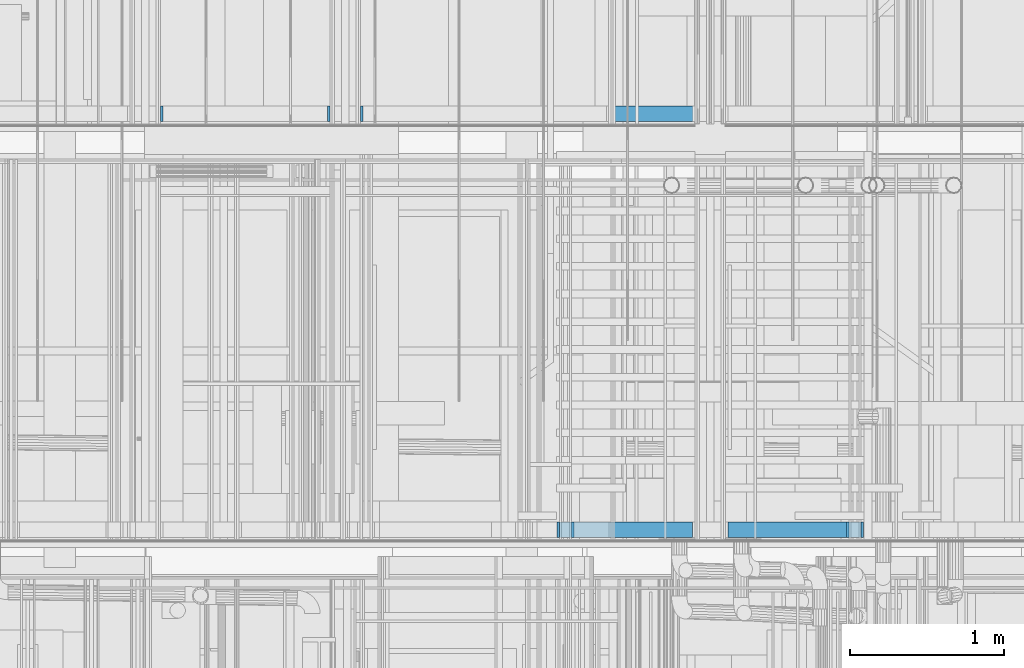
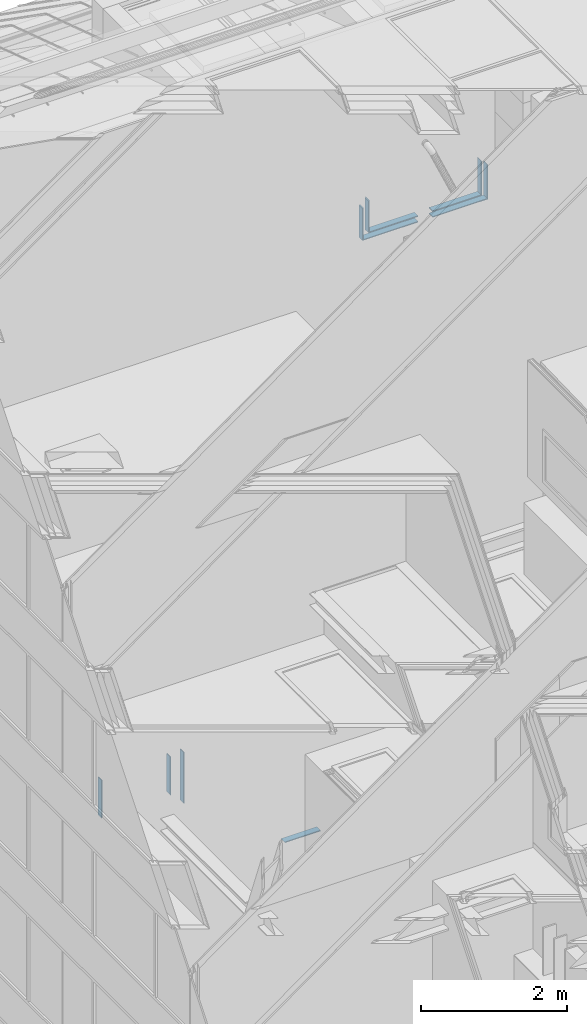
# One storey, part 239 of 583: 12 building element parts, 7 elements without a shape of their own.
"""IFC2X3 building model written with IfcOpenShell, lengths in metres."""

from ifc_helpers import new_model, entity, si_unit, converted_unit, derived_unit, money_unit, direction, frame, origin_with_axes, place, context, subcontext, project, spatial, polyline, outline, extrude, material, type_object, element, aggregate, save


model = new_model("IFC2X3")

# Units and contexts
model_context = context("Model", 3, precision=1e-05, world=origin_with_axes(), true_north=direction((0.0, 1.0)))
body_context = subcontext(model_context, "Body", "Model", "MODEL_VIEW", scale=1.0)
ifc_project = project(units=[si_unit("LENGTHUNIT", "METRE"), si_unit("AREAUNIT", "SQUARE_METRE"), si_unit("VOLUMEUNIT", "CUBIC_METRE"), si_unit("ABSORBEDDOSEUNIT", "GRAY"), si_unit("AMOUNTOFSUBSTANCEUNIT", "MOLE"), si_unit("DOSEEQUIVALENTUNIT", "SIEVERT"), si_unit("ELECTRICCAPACITANCEUNIT", "FARAD"), si_unit("ELECTRICCHARGEUNIT", "COULOMB"), si_unit("ELECTRICCONDUCTANCEUNIT", "SIEMENS"), si_unit("ELECTRICCURRENTUNIT", "AMPERE"), si_unit("ELECTRICRESISTANCEUNIT", "OHM"), si_unit("ELECTRICVOLTAGEUNIT", "VOLT"), si_unit("ENERGYUNIT", "JOULE"), si_unit("FORCEUNIT", "NEWTON"), si_unit("FREQUENCYUNIT", "HERTZ"), si_unit("ILLUMINANCEUNIT", "LUX"), si_unit("INDUCTANCEUNIT", "HENRY"), si_unit("LUMINOUSFLUXUNIT", "LUMEN"), si_unit("LUMINOUSINTENSITYUNIT", "CANDELA"), si_unit("MAGNETICFLUXDENSITYUNIT", "TESLA"), si_unit("MAGNETICFLUXUNIT", "WEBER"), si_unit("MASSUNIT", "GRAM"), converted_unit("PLANEANGLEUNIT", "degree", entity("IfcReal", 0.0174532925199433), si_unit("PLANEANGLEUNIT", "RADIAN"), dimensions=[0, 0, 0, 0, 0, 0, 0]), si_unit("POWERUNIT", "WATT"), si_unit("PRESSUREUNIT", "PASCAL"), si_unit("RADIOACTIVITYUNIT", "BECQUEREL"), si_unit("SOLIDANGLEUNIT", "STERADIAN"), si_unit("THERMODYNAMICTEMPERATUREUNIT", "KELVIN"), si_unit("TIMEUNIT", "SECOND"), derived_unit("ACCELERATIONUNIT", [(si_unit("LENGTHUNIT", "METRE"), 1), (si_unit("TIMEUNIT", "SECOND"), -2)]), derived_unit("ANGULARVELOCITYUNIT", [(converted_unit("PLANEANGLEUNIT", "degree", entity("IfcReal", 0.0174532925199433), si_unit("PLANEANGLEUNIT", "RADIAN"), dimensions=[0, 0, 0, 0, 0, 0, 0]), 1), (si_unit("TIMEUNIT", "SECOND"), -1)]), derived_unit("CURVATUREUNIT", [(converted_unit("PLANEANGLEUNIT", "degree", entity("IfcReal", 0.0174532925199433), si_unit("PLANEANGLEUNIT", "RADIAN"), dimensions=[0, 0, 0, 0, 0, 0, 0]), 1), (si_unit("LENGTHUNIT", "METRE"), -1)]), derived_unit("DYNAMICVISCOSITYUNIT", [(si_unit("PRESSUREUNIT", "PASCAL"), 1), (si_unit("TIMEUNIT", "SECOND"), 1)]), derived_unit("HEATFLUXDENSITYUNIT", [(si_unit("POWERUNIT", "WATT"), 1), (si_unit("LENGTHUNIT", "METRE"), -2)]), derived_unit("HEATINGVALUEUNIT", [(si_unit("ENERGYUNIT", "JOULE"), 1), (si_unit("MASSUNIT", "GRAM"), -1)]), derived_unit("INTEGERCOUNTRATEUNIT", [(si_unit("TIMEUNIT", "SECOND"), -1)]), derived_unit("IONCONCENTRATIONUNIT", [(si_unit("MASSUNIT", "GRAM"), 1), (si_unit("VOLUMEUNIT", "CUBIC_METRE"), -1)]), derived_unit("ISOTHERMALMOISTURECAPACITYUNIT", [(si_unit("VOLUMEUNIT", "CUBIC_METRE"), 1), (si_unit("MASSUNIT", "GRAM"), -1)]), derived_unit("KINEMATICVISCOSITYUNIT", [(si_unit("AREAUNIT", "SQUARE_METRE"), 1), (si_unit("TIMEUNIT", "SECOND"), -1)]), derived_unit("LINEARFORCEUNIT", [(si_unit("FORCEUNIT", "NEWTON"), 1), (si_unit("LENGTHUNIT", "METRE"), -1)]), derived_unit("LINEARMOMENTUNIT", [(si_unit("FORCEUNIT", "NEWTON"), 1), (si_unit("LENGTHUNIT", "METRE"), -1)]), derived_unit("LINEARSTIFFNESSUNIT", [(si_unit("FORCEUNIT", "NEWTON"), 1), (si_unit("LENGTHUNIT", "METRE"), -1)]), derived_unit("LINEARVELOCITYUNIT", [(si_unit("LENGTHUNIT", "METRE"), 1), (si_unit("TIMEUNIT", "SECOND"), -1)]), derived_unit("LUMINOUSINTENSITYDISTRIBUTIONUNIT", [(si_unit("LUMINOUSINTENSITYUNIT", "CANDELA"), 1), (si_unit("LUMINOUSFLUXUNIT", "LUMEN"), -1)]), derived_unit("MASSDENSITYUNIT", [(si_unit("MASSUNIT", "GRAM"), 1), (si_unit("VOLUMEUNIT", "CUBIC_METRE"), -1)]), derived_unit("MASSFLOWRATEUNIT", [(si_unit("MASSUNIT", "GRAM"), 1), (si_unit("TIMEUNIT", "SECOND"), -1)]), derived_unit("MASSPERLENGTHUNIT", [(si_unit("MASSUNIT", "GRAM"), 1), (si_unit("LENGTHUNIT", "METRE"), -1)]), derived_unit("MODULUSOFELASTICITYUNIT", [(si_unit("FORCEUNIT", "NEWTON"), 1), (si_unit("AREAUNIT", "SQUARE_METRE"), -1)]), derived_unit("MODULUSOFLINEARSUBGRADEREACTIONUNIT", [(si_unit("FORCEUNIT", "NEWTON"), 1), (si_unit("LENGTHUNIT", "METRE"), -2)]), derived_unit("MODULUSOFROTATIONALSUBGRADEREACTIONUNIT", [(si_unit("FORCEUNIT", "NEWTON"), 1), (si_unit("LENGTHUNIT", "METRE"), 1)]), derived_unit("MODULUSOFSUBGRADEREACTIONUNIT", [(si_unit("FORCEUNIT", "NEWTON"), 1), (si_unit("VOLUMEUNIT", "CUBIC_METRE"), -1)]), derived_unit("MOISTUREDIFFUSIVITYUNIT", [(si_unit("VOLUMEUNIT", "CUBIC_METRE"), 1), (si_unit("TIMEUNIT", "SECOND"), -1)]), derived_unit("MOLECULARWEIGHTUNIT", [(si_unit("MASSUNIT", "GRAM"), 1), (si_unit("AMOUNTOFSUBSTANCEUNIT", "MOLE"), -1)]), derived_unit("PLANARFORCEUNIT", [(si_unit("FORCEUNIT", "NEWTON"), 1), (si_unit("LENGTHUNIT", "METRE"), -2)]), derived_unit("ROTATIONALFREQUENCYUNIT", [(si_unit("TIMEUNIT", "SECOND"), -1)]), derived_unit("ROTATIONALMASSUNIT", [(si_unit("MASSUNIT", "GRAM"), 1), (si_unit("LENGTHUNIT", "METRE"), 2)]), derived_unit("ROTATIONALSTIFFNESSUNIT", [(si_unit("FORCEUNIT", "NEWTON"), 1), (si_unit("LENGTHUNIT", "METRE"), 1), (converted_unit("PLANEANGLEUNIT", "degree", entity("IfcReal", 0.0174532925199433), si_unit("PLANEANGLEUNIT", "RADIAN"), dimensions=[0, 0, 0, 0, 0, 0, 0]), -1)]), derived_unit("SECTIONAREAINTEGRALUNIT", [(si_unit("LENGTHUNIT", "METRE"), 5)]), derived_unit("SECTIONMODULUSUNIT", [(si_unit("LENGTHUNIT", "METRE"), 3)]), derived_unit("SHEARMODULUSUNIT", [(si_unit("FORCEUNIT", "NEWTON"), 1), (si_unit("AREAUNIT", "SQUARE_METRE"), -1)]), derived_unit("SOUNDPOWERUNIT", [(si_unit("ENERGYUNIT", "JOULE"), 1), (si_unit("TIMEUNIT", "SECOND"), -1)]), derived_unit("SPECIFICHEATCAPACITYUNIT", [(si_unit("FORCEUNIT", "NEWTON"), 1), (si_unit("MASSUNIT", "GRAM"), -1), (si_unit("THERMODYNAMICTEMPERATUREUNIT", "KELVIN"), -1)]), derived_unit("TEMPERATUREGRADIENTUNIT", [(si_unit("THERMODYNAMICTEMPERATUREUNIT", "KELVIN"), 1), (si_unit("LENGTHUNIT", "METRE"), -1)]), derived_unit("THERMALADMITTANCEUNIT", [(si_unit("POWERUNIT", "WATT"), 1), (si_unit("AREAUNIT", "SQUARE_METRE"), -1), (si_unit("THERMODYNAMICTEMPERATUREUNIT", "KELVIN"), -1)]), derived_unit("THERMALCONDUCTANCEUNIT", [(si_unit("POWERUNIT", "WATT"), 1), (si_unit("LENGTHUNIT", "METRE"), -1), (si_unit("THERMODYNAMICTEMPERATUREUNIT", "KELVIN"), -1)]), derived_unit("THERMALEXPANSIONCOEFFICIENTUNIT", [(si_unit("THERMODYNAMICTEMPERATUREUNIT", "KELVIN"), -1)]), derived_unit("THERMALRESISTANCEUNIT", [(si_unit("AREAUNIT", "SQUARE_METRE"), 1), (si_unit("POWERUNIT", "WATT"), -1)]), derived_unit("THERMALTRANSMITTANCEUNIT", [(si_unit("POWERUNIT", "WATT"), 1), (si_unit("AREAUNIT", "SQUARE_METRE"), -1), (si_unit("THERMODYNAMICTEMPERATUREUNIT", "KELVIN"), -1)]), derived_unit("TORQUEUNIT", [(si_unit("FORCEUNIT", "NEWTON"), 1), (si_unit("LENGTHUNIT", "METRE"), 1)]), derived_unit("VAPORPERMEABILITYUNIT", [(si_unit("MASSUNIT", "GRAM"), 1), (si_unit("TIMEUNIT", "SECOND"), -1)]), derived_unit("VOLUMETRICFLOWRATEUNIT", [(si_unit("VOLUMEUNIT", "CUBIC_METRE"), 1), (si_unit("TIMEUNIT", "SECOND"), -1)]), derived_unit("WARPINGCONSTANTUNIT", [(si_unit("LENGTHUNIT", "METRE"), 6)]), derived_unit("WARPINGMOMENTUNIT", [(si_unit("FORCEUNIT", "NEWTON"), 1), (si_unit("LENGTHUNIT", "METRE"), 2)]), money_unit("GBP")], contexts=[model_context])

# Site, building, storey
site_placement = place(None, origin_with_axes())
site = spatial("IfcSite", under=ifc_project, at=site_placement, Name="Site", CompositionType="ELEMENT")
building_placement = place(site_placement, origin_with_axes())
building = spatial("IfcBuilding", under=site, at=building_placement, Name="Building01", CompositionType="ELEMENT")
storey_placement = place(building_placement, frame((0.0, 0.0, 20.78), z_axis=(0.0, 0.0, 1.0), x_axis=(1.0, 0.0, 0.0)))
storey = spatial("IfcBuildingStorey", under=building, at=storey_placement, Name="RL", CompositionType="ELEMENT", Elevation=20.78)

# Wall, building element parts
wall_type_1 = type_object("IfcWallType", Name="SHE_A-Walls_Type05b_Partition_80mm", PredefinedType="NOTDEFINED")
wall_1_placement = place(storey_placement, frame((8.401915, 14.98, 2.426821), z_axis=(0.0, 1.0, 0.0), x_axis=(0.0, 0.0, 1.0)))
wall_1 = element("IfcWall", 1, at=wall_1_placement, inside=storey, type_object=wall_type_1, Name="5B", ObjectType="SHE_A-Walls_Type05b_Partition_80mm")
ifc_material = material(Name="A_BSUK_Walls_Timber")
placement_1 = place(wall_1_placement, origin_with_axes())
building_element_part_1 = element("IfcBuildingElementPart", 2, at=placement_1, material=ifc_material, Name="2", context=body_context, shape_type="SweptSolid", body=[
    extrude(outline(polyline([(0.528179, 0.043), (-0.043, 0.043), (-0.028, 0.028), (0.543179, 0.028), (0.528179, 0.043)])), frame((0.0, 0.0, 0.015), z_axis=(0.0, 0.0, 1.0), x_axis=(1.0, 0.0, 0.0)), (0.0, 0.0, 1.0), 0.1),
])
building_element_part_2 = element("IfcBuildingElementPart", 3, at=placement_1, material=ifc_material, Name="5", context=body_context, shape_type="SweptSolid", body=[
    extrude(outline(polyline([(0.623179, -0.052), (0.052, -0.052), (0.067, -0.067), (0.638179, -0.067), (0.623179, -0.052)])), frame((0.0, 0.0, 0.015), z_axis=(0.0, 0.0, 1.0), x_axis=(1.0, 0.0, 0.0)), (0.0, 0.0, 1.0), 0.1),
])
aggregate(wall_1, [building_element_part_1, building_element_part_2])

wall_2_placement = place(storey_placement, frame((6.498085, 14.98, 2.426821), z_axis=(0.0, 1.0, 0.0), x_axis=(0.0, 0.0, 1.0)))
wall_2 = element("IfcWall", 4, at=wall_2_placement, inside=storey, type_object=wall_type_1, Name="5B", ObjectType="SHE_A-Walls_Type05b_Partition_80mm")
placement_2 = place(wall_2_placement, origin_with_axes())
building_element_part_3 = element("IfcBuildingElementPart", 5, at=placement_2, material=ifc_material, Name="2", context=body_context, shape_type="SweptSolid", body=[
    extrude(outline(polyline([(0.503179, -0.028), (-0.028, -0.028), (-0.043, -0.043), (0.488179, -0.043), (0.503179, -0.028)])), frame((0.0, 0.0, 0.015), z_axis=(0.0, 0.0, 1.0), x_axis=(1.0, 0.0, 0.0)), (0.0, 0.0, 1.0), 0.1),
])
building_element_part_4 = element("IfcBuildingElementPart", 6, at=placement_2, material=ifc_material, Name="5", context=body_context, shape_type="SweptSolid", body=[
    extrude(outline(polyline([(0.598179, 0.067), (0.067, 0.067), (0.052, 0.052), (0.583179, 0.052), (0.598179, 0.067)])), frame((0.0, 0.0, 0.015), z_axis=(0.0, 0.0, 1.0), x_axis=(1.0, 0.0, 0.0)), (0.0, 0.0, 1.0), 0.1),
])
aggregate(wall_2, [building_element_part_3, building_element_part_4])

wall_3_placement = place(storey_placement, frame((7.549915, 14.98, 2.426821), z_axis=(0.0, 1.0, 0.0), x_axis=(1.0, 0.0, 0.0)))
wall_3 = element("IfcWall", 7, at=wall_3_placement, inside=storey, type_object=wall_type_1, Name="5B", ObjectType="SHE_A-Walls_Type05b_Partition_80mm")
placement_3 = place(wall_3_placement, origin_with_axes())
building_element_part_5 = element("IfcBuildingElementPart", 8, at=placement_3, material=ifc_material, Name="2", context=body_context, shape_type="SweptSolid", body=[
    extrude(outline(polyline([(0.895, 0.043), (0.015, 0.043), (0.015, 0.028), (0.88, 0.028), (0.895, 0.043)])), frame((0.0, 0.0, 0.015), z_axis=(0.0, 0.0, 1.0), x_axis=(1.0, 0.0, 0.0)), (0.0, 0.0, 1.0), 0.1),
])
building_element_part_6 = element("IfcBuildingElementPart", 9, at=placement_3, material=ifc_material, Name="5", context=body_context, shape_type="SweptSolid", body=[
    extrude(outline(polyline([(0.8, -0.052), (0.015, -0.052), (0.015, -0.067), (0.785, -0.067), (0.8, -0.052)])), frame((0.0, 0.0, 0.015), z_axis=(0.0, 0.0, 1.0), x_axis=(1.0, 0.0, 0.0)), (0.0, 0.0, 1.0), 0.1),
])
aggregate(wall_3, [building_element_part_5, building_element_part_6])

wall_4_placement = place(storey_placement, frame((7.349915, 14.98, 2.426821), z_axis=(0.0, 1.0, 0.0), x_axis=(-1.0, 0.0, 0.0)))
wall_4 = element("IfcWall", 10, at=wall_4_placement, inside=storey, type_object=wall_type_1, Name="5B", ObjectType="SHE_A-Walls_Type05b_Partition_80mm")
placement_4 = place(wall_4_placement, origin_with_axes())
building_element_part_7 = element("IfcBuildingElementPart", 11, at=placement_4, material=ifc_material, Name="2", context=body_context, shape_type="SweptSolid", body=[
    extrude(outline(polyline([(0.87983, -0.028), (0.015, -0.028), (0.015, -0.043), (0.89483, -0.043), (0.87983, -0.028)])), frame((0.0, 0.0, 0.015), z_axis=(0.0, 0.0, 1.0), x_axis=(1.0, 0.0, 0.0)), (0.0, 0.0, 1.0), 0.1),
])
building_element_part_8 = element("IfcBuildingElementPart", 12, at=placement_4, material=ifc_material, Name="5", context=body_context, shape_type="SweptSolid", body=[
    extrude(outline(polyline([(0.78483, 0.067), (0.015, 0.067), (0.015, 0.052), (0.79983, 0.052), (0.78483, 0.067)])), frame((0.0, 0.0, 0.015), z_axis=(0.0, 0.0, 1.0), x_axis=(1.0, 0.0, 0.0)), (0.0, 0.0, 1.0), 0.1),
])
aggregate(wall_4, [building_element_part_7, building_element_part_8])

wall_type_2 = type_object("IfcWallType", Name="SHE_A-Walls_Type01d_Partywall_200mm_twin", PredefinedType="NOTDEFINED")
wall_5_placement = place(storey_placement, frame((5.105, 17.68, -7.305), z_axis=(0.0, 1.0, 0.0), x_axis=(0.0, 0.0, -1.0)))
wall_5 = element("IfcWall", 13, at=wall_5_placement, inside=storey, type_object=wall_type_2, Name="1D", ObjectType="SHE_A-Walls_Type01d_Partywall_200mm_twin")
placement_5 = place(wall_5_placement, origin_with_axes())
building_element_part_9 = element("IfcBuildingElementPart", 14, at=placement_5, material=ifc_material, Name="2", context=body_context, shape_type="SweptSolid", body=[
    extrude(outline(polyline([(0.71, 0.14), (0.075, 0.14), (0.075, 0.125), (0.725, 0.125), (0.71, 0.14)])), frame((0.0, 0.0, 0.015), z_axis=(0.0, 0.0, 1.0), x_axis=(1.0, 0.0, 0.0)), (0.0, 0.0, 1.0), 0.1),
])
building_element_part_10 = element("IfcBuildingElementPart", 15, at=placement_5, material=ifc_material, Name="7", context=body_context, shape_type="SweptSolid", body=[
    extrude(outline(polyline([(0.925, -0.075), (0.075, -0.075), (0.075, -0.09), (0.94, -0.09), (0.925, -0.075)])), frame((0.0, 0.0, 0.015), z_axis=(0.0, 0.0, 1.0), x_axis=(1.0, 0.0, 0.0)), (0.0, 0.0, 1.0), 0.1),
])
aggregate(wall_5, [building_element_part_9, building_element_part_10])

# Wall, building element part
wall_6_placement = place(storey_placement, frame((3.755, 17.68, -8.155), z_axis=(0.0, 1.0, 0.0), x_axis=(0.0, 0.0, 1.0)))
wall_6 = element("IfcWall", 16, at=wall_6_placement, inside=storey, type_object=wall_type_2, Name="1D", ObjectType="SHE_A-Walls_Type01d_Partywall_200mm_twin")
building_element_part_11_placement = place(wall_6_placement, origin_with_axes())
building_element_part_11 = element("IfcBuildingElementPart", 17, at=building_element_part_11_placement, material=ifc_material, Name="2", context=body_context, shape_type="SweptSolid", body=[
    extrude(outline(polyline([(0.76, 0.14), (0.14, 0.14), (0.125, 0.125), (0.76, 0.125), (0.76, 0.14)])), frame((0.0, 0.0, 0.015), z_axis=(0.0, 0.0, 1.0), x_axis=(1.0, 0.0, 0.0)), (0.0, 0.0, 1.0), 0.1),
])
aggregate(wall_6, [building_element_part_11])

wall_type_3 = type_object("IfcWallType", Name="SHE_A-Walls_Type02c_LiftShaftWall_193mm", PredefinedType="NOTDEFINED")
wall_7_placement = place(storey_placement, frame((6.909769, 17.68, -9.577), z_axis=(0.0, 1.0, 0.0), x_axis=(1.0, 0.0, 0.0)))
wall_7 = element("IfcWall", 18, at=wall_7_placement, inside=storey, type_object=wall_type_3, Name="2C", ObjectType="SHE_A-Walls_Type02c_LiftShaftWall_193mm")
building_element_part_12_placement = place(wall_7_placement, origin_with_axes())
building_element_part_12 = element("IfcBuildingElementPart", 19, at=building_element_part_12_placement, material=ifc_material, Name="7", context=body_context, shape_type="SweptSolid", body=[
    extrude(outline(polyline([(0.440171, -0.12), (-0.12, -0.12), (-0.135, -0.135), (0.440171, -0.135), (0.440171, -0.12)])), frame((0.0, 0.0, 0.015), z_axis=(0.0, 0.0, 1.0), x_axis=(1.0, 0.0, 0.0)), (0.0, 0.0, 1.0), 0.1),
])
aggregate(wall_7, [building_element_part_12])

save(model, "model.ifc")
